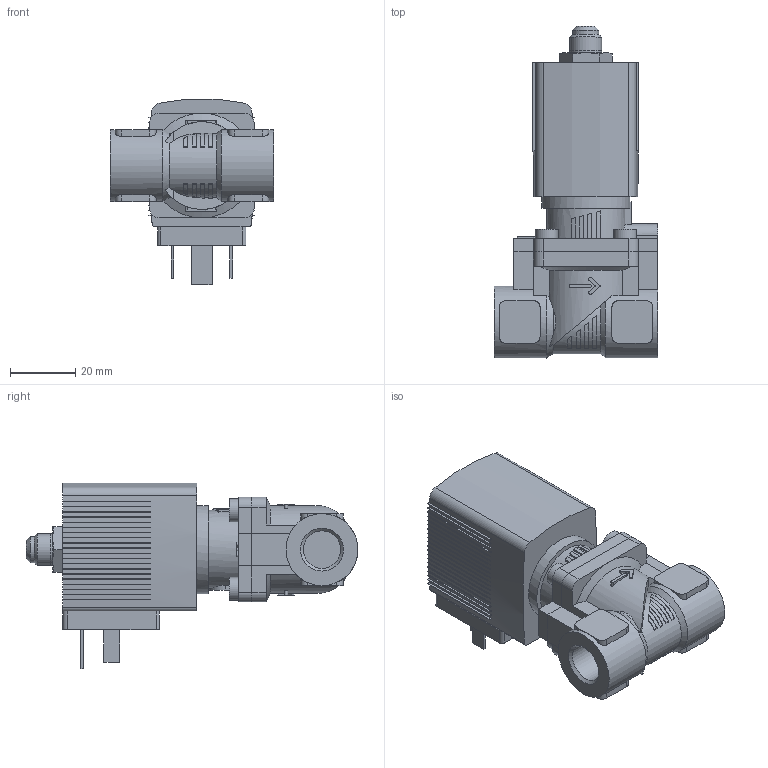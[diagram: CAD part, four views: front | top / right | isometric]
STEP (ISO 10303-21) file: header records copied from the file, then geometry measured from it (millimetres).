
FILE_DESCRIPTION(/* description */ ('STEP AP214'),/* implementation_level */ '2;1');
FILE_NAME(/* name */ '6281-338429-2_2-Way_Solenoid_Valve__Servo-assisted__General_Purpose',/* time_stamp */ '2024-05-17T23:13:14+02:00',/* author */ ('License CC BY-ND 4.0'),/* organization */ ('CADENAS'),/* preprocessor_version */ 'ST-DEVELOPER v19.3',/* originating_system */ 'PARTsolutions',/* authorisation */ ' ');
FILE_SCHEMA (('AUTOMOTIVE_DESIGN {1 0 10303 214 3 1 1}'));
Length unit declared in the file: millimetre
Products named in the file (4): 6281-338429-2/2-Way Solenoid Valve, Servo-assisted, General Purpose; 5281ev100MS2/2-Wege-Magnetventil mit Servomembran-Deckel   ; 6213-10G1/4MS-Gehaeuse-; AC10ex-5OO-Gewinde-Coil
Assembly tree (3 placements, depth 2):
  6281-338429-2/2-Way Solenoid Valve, Servo-assisted, General Purpose
    5281ev100MS2/2-Wege-Magnetventil mit Servomembran-Deckel   
    6213-10G1/4MS-Gehaeuse-
    AC10ex-5OO-Gewinde-Coil
Bounding box: 50 x 101.5 x 56.84 mm (x, y, z)
Volume: 93920 mm3; surface area: 23002.6 mm2
Topology: 3 solids, 3 shells, 529 faces, 1458 edges, 967 vertices
Faces by surface type: plane 426, cylinder 88, cone 15
Full cylindrical faces by diameter (mm): 2.013 x1, 2.7 x1, 7 x4, 8 x1, 9.73 x1, 9.74 x1, 11.445 x2, 22 x1, 27 x1
Entity records: 19381 total; most frequent: CARTESIAN_POINT 3163, ORIENTED_EDGE 2862, DIRECTION 2752, EDGE_CURVE 1431, LINE 1050, VECTOR 1050, VERTEX_POINT 958, AXIS2_PLACEMENT_3D 851
